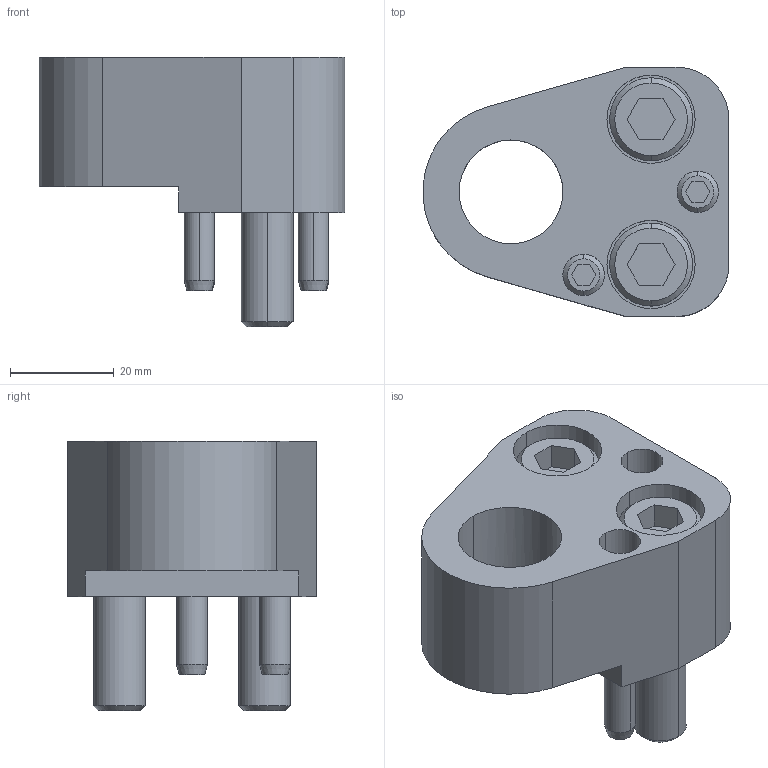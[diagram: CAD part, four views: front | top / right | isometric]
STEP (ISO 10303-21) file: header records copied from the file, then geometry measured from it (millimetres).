
FILE_DESCRIPTION(/* description */ (''),/* implementation_level */ '2;1');
FILE_NAME(/* name */ '3d_hdpfr20_04048_r00.stp',/* time_stamp */ '2011-01-10T14:14:52+09:00',/* author */ ('MISUMI'),/* organization */ (''),/* preprocessor_version */ 'ST-DEVELOPER v11',/* originating_system */ 'UGS - NX 5.0',/* authorisation */ '');
FILE_SCHEMA (('CONFIG_CONTROL_DESIGN'));
Length unit declared in the file: millimetre
Products named in the file (1): 3d_hdpfr20_04048_r00
Bounding box: 58.94 x 48 x 52 mm (x, y, z)
Volume: 57086.8 mm3; surface area: 20689.7 mm2
Topology: 7 solids, 7 shells, 134 faces, 298 edges, 191 vertices
Faces by surface type: plane 61, cylinder 47, cone 26
Entity records: 3856 total; most frequent: DIRECTION 682, CARTESIAN_POINT 681, ORIENTED_EDGE 596, EDGE_CURVE 298, AXIS2_PLACEMENT_3D 256, VERTEX_POINT 191, LINE 170, VECTOR 170
